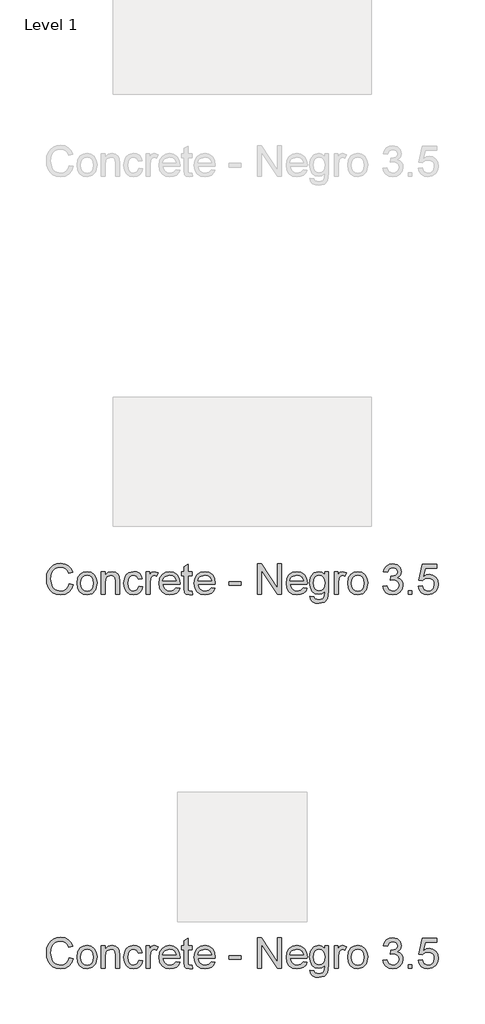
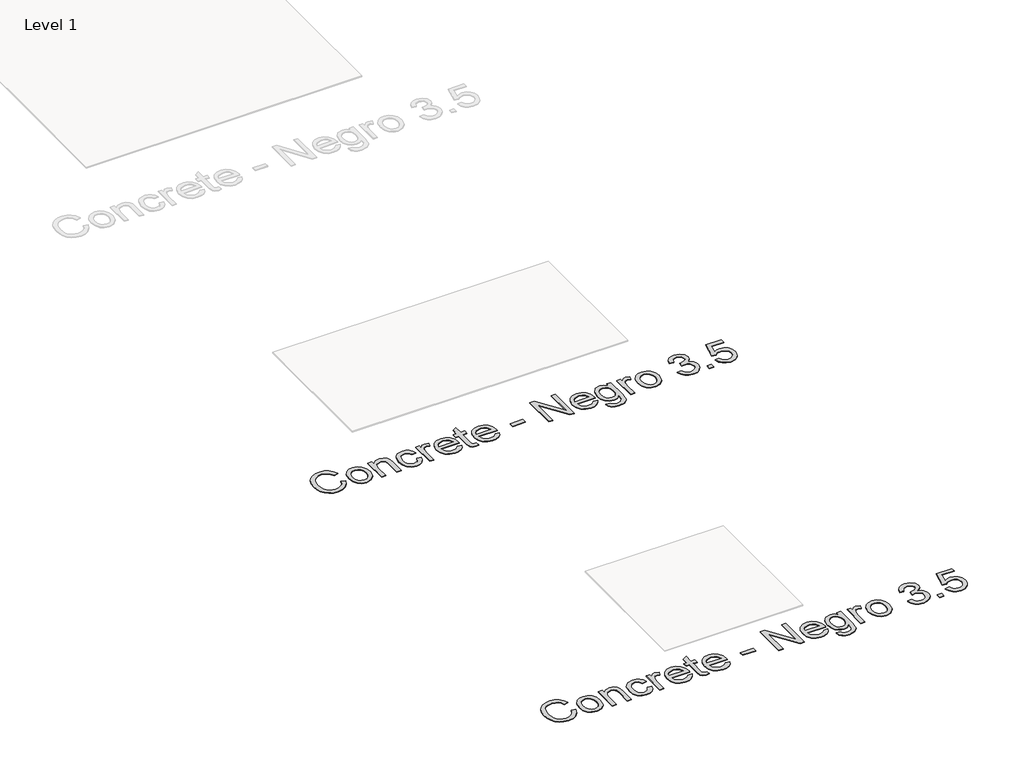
# One storey, part 51 of 80: 2 proxies.
"""IFC4 building model written with IfcOpenShell, lengths in millimetres."""

from ifc_helpers import new_model, si_unit, origin, origin_with_axes, place, context, project, spatial, polyline, outline, extrude, element, save

model = new_model("IFC4")

# Units and contexts
model_context = context("Model", 3, world=origin())
ifc_project = project(units=[si_unit("LENGTHUNIT", "METRE", prefix="MILLI")], contexts=[model_context])

# Site, building, storey
site = spatial("IfcSite", under=ifc_project)
building = spatial("IfcBuilding", under=site)
storey = spatial("IfcBuildingStorey", under=building, Name="Level 1", Elevation=0.0)

# Proxies
placement = place(None, origin())
element("IfcBuildingElementProxy", 1, Name="24\" Arial", ObjectType="24\" Arial", at=placement, inside=storey, context=model_context, shape_type="SweptSolid", body=[
    extrude(outline(polyline([(-3254.7684156, 5685.3136623), (-3239.9991848, 5681.50597), (-3246.8140887, 5664.2956335), (-3257.5088002, 5651.7223162), (-3271.5568771, 5644.0312104), (-3288.4318771, 5641.4675085), (-3305.5628867, 5643.4074123), (-3319.1674541, 5649.2271239), (-3329.5953387, 5658.72472), (-3337.1963002, 5671.6982777), (-3341.8369252, 5686.9506816), (-3343.3838002, 5703.2848162), (-3341.6350021, 5720.5131816), (-3336.3886079, 5735.3905854), (-3327.918656, 5747.444672), (-3316.4991848, 5756.2030854), (-3302.9559156, 5761.5360181), (-3288.1145694, 5763.3136623), (-3271.9210598, 5761.0131816), (-3258.5328387, 5754.1117393), (-3248.3681752, 5743.0348162), (-3241.8453387, 5728.2078931), (-3256.6145694, 5724.6886623), (-3261.7347617, 5735.459095), (-3268.7299541, 5742.8473162), (-3277.6866848, 5747.1201527), (-3288.6914925, 5748.5444316), (-3301.3765887, 5746.9651047), (-3311.7972617, 5742.2271239), (-3319.7047137, 5734.8280854), (-3324.8501464, 5725.2655854), (-3328.6145694, 5703.3136623), (-3324.1578387, 5677.8713547), (-3318.4607233, 5668.3701527), (-3310.2828387, 5661.616547), (-3289.903031, 5656.2367393), (-3277.574906, 5658.06847), (-3267.3020694, 5663.5636623), (-3259.5460598, 5672.6646239), (-3254.7684156, 5685.3136623)])), origin_with_axes(), (0.0, 0.0, 1.0), 2.0),
    extrude(outline(polyline([(-3225.2299541, 5686.6982777), (-3222.0352425, 5707.6189508), (-3212.4511079, 5722.3232777), (-3200.6097617, 5729.5276047), (-3186.4318771, 5731.929047), (-3170.9162521, 5729.0047681), (-3158.5232233, 5720.2319316), (-3150.3994252, 5706.302845), (-3147.6914925, 5687.9098162), (-3152.4799541, 5661.63097), (-3166.4270694, 5646.7607777), (-3186.4318771, 5641.4675085), (-3202.1350021, 5644.38097), (-3214.5136079, 5653.1213547), (-3222.5508675, 5667.3425085), (-3225.2299541, 5686.6982777)]), holes=[polyline([(-3210.4607233, 5686.7271239), (-3208.7515887, 5673.3605373), (-3203.6241848, 5663.8377008), (-3195.9078387, 5658.1369797), (-3186.4318771, 5656.2367393), (-3176.9991848, 5658.147797), (-3169.2972617, 5663.88097), (-3164.1698579, 5673.5300085), (-3162.4607233, 5687.1886623), (-3164.1806752, 5700.1658258), (-3169.340531, 5709.5588547), (-3177.0532714, 5715.2595758), (-3186.4318771, 5717.1598162), (-3195.9078387, 5715.2667873), (-3203.6241848, 5709.5877008), (-3208.7515887, 5700.0864989), (-3210.4607233, 5686.7271239)])]), origin_with_axes(), (0.0, 0.0, 1.0), 2.0),
    extrude(outline(polyline([(-3131.0761079, 5643.3136623), (-3131.0761079, 5730.0828931), (-3116.3068771, 5730.0828931), (-3116.3068771, 5717.9675085), (-3105.0136079, 5728.4386623), (-3089.5953387, 5731.929047), (-3075.6482233, 5729.116547), (-3066.1289925, 5721.7319316), (-3061.7011079, 5710.8713547), (-3060.9222617, 5696.5925085), (-3060.9222617, 5643.3136623), (-3075.6914925, 5643.3136623), (-3075.6914925, 5694.6021239), (-3077.3934156, 5707.6694316), (-3083.4078387, 5714.5780854), (-3093.5472617, 5717.1598162), (-3109.5713002, 5711.3617393), (-3114.6229829, 5702.960297), (-3116.3068771, 5689.3521239), (-3116.3068771, 5643.3136623), (-3131.0761079, 5643.3136623)])), origin_with_axes(), (0.0, 0.0, 1.0), 2.0),
    extrude(outline(polyline([(-2985.2299541, 5674.6982777), (-2970.4607233, 5672.8521239), (-2974.5785117, 5659.7163066), (-2982.3164925, 5649.7896239), (-2992.9463002, 5643.5480373), (-3005.7395694, 5641.4675085), (-3021.449906, 5644.3701527), (-3033.7347617, 5653.0780854), (-3041.6638483, 5667.209095), (-3044.3068771, 5686.38097), (-3039.7924541, 5710.9146239), (-3034.0953387, 5720.1129412), (-3026.0328387, 5726.679047), (-3005.9414925, 5731.929047), (-2993.4619252, 5730.1261623), (-2983.4847617, 5724.7175085), (-2976.3273098, 5715.991547), (-2972.3068771, 5704.2367393), (-2987.0761079, 5702.3905854), (-2993.9270694, 5713.4530854), (-3005.8261079, 5717.1598162), (-3015.3705791, 5715.335297), (-3022.9463002, 5709.8617393), (-3027.8898098, 5700.44347), (-3029.5376464, 5686.7848162), (-3027.9258675, 5672.9422681), (-3023.090531, 5663.491547), (-3015.6518291, 5658.0504412), (-3006.2299541, 5656.2367393), (-2992.3116848, 5660.7655854), (-2985.2299541, 5674.6982777)])), origin_with_axes(), (0.0, 0.0, 1.0), 2.0),
    extrude(outline(polyline([(-2957.5376464, 5643.3136623), (-2957.5376464, 5730.0828931), (-2944.6145694, 5730.0828931), (-2944.6145694, 5717.2463547), (-2935.4414925, 5729.0732777), (-2926.2107233, 5731.929047), (-2911.3838002, 5727.3713547), (-2916.3164925, 5714.13097), (-2926.7011079, 5717.1598162), (-2935.0520694, 5714.2463547), (-2940.3741848, 5706.1694316), (-2942.7684156, 5688.9194316), (-2942.7684156, 5643.3136623), (-2957.5376464, 5643.3136623)])), origin_with_axes(), (0.0, 0.0, 1.0), 2.0),
    extrude(outline(polyline([(-2841.403031, 5669.1598162), (-2826.9222617, 5667.3136623), (-2832.1398098, 5656.4026047), (-2840.465531, 5648.2463547), (-2851.7119252, 5643.16222), (-2865.6914925, 5641.4675085), (-2883.0208194, 5644.3917873), (-2896.3549541, 5653.1646239), (-2904.8573579, 5667.2163066), (-2907.6914925, 5685.9771239), (-2904.8285117, 5705.3689508), (-2896.2395694, 5719.8713547), (-2883.0857233, 5728.9146239), (-2866.528031, 5731.929047), (-2850.4859637, 5728.9218354), (-2837.6674541, 5719.9002008), (-2829.262406, 5705.4266431), (-2826.4607233, 5686.0636623), (-2826.5472617, 5682.0828931), (-2892.9222617, 5682.0828931), (-2890.3657714, 5671.0276047), (-2884.4270694, 5662.9002008), (-2875.856156, 5657.9026047), (-2865.403031, 5656.2367393), (-2850.9222617, 5659.3232777), (-2841.403031, 5669.1598162)]), holes=[polyline([(-2892.9222617, 5696.8521239), (-2841.2299541, 5696.8521239), (-2847.1434156, 5710.2367393), (-2855.7539925, 5715.429047), (-2866.5857233, 5717.1598162), (-2884.7732233, 5711.6357777), (-2890.4955791, 5705.177845), (-2892.9222617, 5696.8521239)])]), origin_with_axes(), (0.0, 0.0, 1.0), 2.0),
    extrude(outline(polyline([(-2780.3068771, 5655.63097), (-2778.4607233, 5642.88097), (-2789.5088002, 5641.4675085), (-2801.8838002, 5643.9194316), (-2808.0568771, 5650.3521239), (-2809.8453387, 5667.1117393), (-2809.8453387, 5715.3136623), (-2820.9222617, 5715.3136623), (-2820.9222617, 5730.0828931), (-2809.8453387, 5730.0828931), (-2809.8453387, 5751.1694316), (-2795.0761079, 5759.8521239), (-2795.0761079, 5730.0828931), (-2780.3068771, 5730.0828931), (-2780.3068771, 5715.3136623), (-2795.0761079, 5715.3136623), (-2795.0761079, 5667.5444316), (-2794.2972617, 5659.929047), (-2791.7732233, 5657.2319316), (-2786.7395694, 5656.2367393), (-2780.3068771, 5655.63097)])), origin_with_axes(), (0.0, 0.0, 1.0), 2.0),
    extrude(outline(polyline([(-2704.7876464, 5669.1598162), (-2690.3068771, 5667.3136623), (-2695.5244252, 5656.4026047), (-2703.8501464, 5648.2463547), (-2715.0965406, 5643.16222), (-2729.0761079, 5641.4675085), (-2746.4054348, 5644.3917873), (-2759.7395694, 5653.1646239), (-2768.2419733, 5667.2163066), (-2771.0761079, 5685.9771239), (-2768.2131271, 5705.3689508), (-2759.6241848, 5719.8713547), (-2746.4703387, 5728.9146239), (-2729.9126464, 5731.929047), (-2713.8705791, 5728.9218354), (-2701.0520694, 5719.9002008), (-2692.6470214, 5705.4266431), (-2689.8453387, 5686.0636623), (-2689.9318771, 5682.0828931), (-2756.3068771, 5682.0828931), (-2753.7503867, 5671.0276047), (-2747.8116848, 5662.9002008), (-2739.2407714, 5657.9026047), (-2728.7876464, 5656.2367393), (-2714.3068771, 5659.3232777), (-2704.7876464, 5669.1598162)]), holes=[polyline([(-2756.3068771, 5696.8521239), (-2704.6145694, 5696.8521239), (-2710.528031, 5710.2367393), (-2719.1386079, 5715.429047), (-2729.9703387, 5717.1598162), (-2748.1578387, 5711.6357777), (-2753.8801944, 5705.177845), (-2756.3068771, 5696.8521239)])]), origin_with_axes(), (0.0, 0.0, 1.0), 2.0),
    extrude(outline(polyline([(-2636.3068771, 5678.3905854), (-2636.3068771, 5693.1598162), (-2590.153031, 5693.1598162), (-2590.153031, 5678.3905854), (-2636.3068771, 5678.3905854)])), origin_with_axes(), (0.0, 0.0, 1.0), 2.0),
    extrude(outline(polyline([(-2525.5376464, 5643.3136623), (-2525.5376464, 5761.4675085), (-2509.7299541, 5761.4675085), (-2447.9991848, 5667.8617393), (-2447.9991848, 5761.4675085), (-2433.2299541, 5761.4675085), (-2433.2299541, 5643.3136623), (-2449.0376464, 5643.3136623), (-2510.7684156, 5736.9482777), (-2510.7684156, 5643.3136623), (-2525.5376464, 5643.3136623)])), origin_with_axes(), (0.0, 0.0, 1.0), 2.0),
    extrude(outline(polyline([(-2348.4799541, 5669.1598162), (-2333.9991848, 5667.3136623), (-2339.2167329, 5656.4026047), (-2347.5424541, 5648.2463547), (-2358.7888483, 5643.16222), (-2372.7684156, 5641.4675085), (-2390.0977425, 5644.3917873), (-2403.4318771, 5653.1646239), (-2411.934281, 5667.2163066), (-2414.7684156, 5685.9771239), (-2411.9054348, 5705.3689508), (-2403.3164925, 5719.8713547), (-2390.1626464, 5728.9146239), (-2373.6049541, 5731.929047), (-2357.5628867, 5728.9218354), (-2344.7443771, 5719.9002008), (-2336.3393291, 5705.4266431), (-2333.5376464, 5686.0636623), (-2333.6241848, 5682.0828931), (-2399.9991848, 5682.0828931), (-2397.4426944, 5671.0276047), (-2391.5039925, 5662.9002008), (-2382.9330791, 5657.9026047), (-2372.4799541, 5656.2367393), (-2357.9991848, 5659.3232777), (-2348.4799541, 5669.1598162)]), holes=[polyline([(-2399.9991848, 5696.8521239), (-2348.3068771, 5696.8521239), (-2354.2203387, 5710.2367393), (-2362.8309156, 5715.429047), (-2373.6626464, 5717.1598162), (-2391.8501464, 5711.6357777), (-2397.5725021, 5705.177845), (-2399.9991848, 5696.8521239)])]), origin_with_axes(), (0.0, 0.0, 1.0), 2.0),
    extrude(outline(polyline([(-2322.4607233, 5635.929047), (-2307.6914925, 5634.0828931), (-2302.903031, 5626.2944316), (-2288.5664925, 5623.00597), (-2273.4511079, 5626.7271239), (-2266.2395694, 5637.1694316), (-2265.2299541, 5654.3905854), (-2275.6289925, 5646.0828931), (-2288.3068771, 5643.3136623), (-2303.5340406, 5646.53722), (-2314.8886079, 5656.2078931), (-2321.9523098, 5670.3857777), (-2324.3068771, 5687.13097), (-2320.0809156, 5710.0203931), (-2307.8501464, 5726.2175085), (-2289.028031, 5731.929047), (-2275.8525502, 5728.6982777), (-2265.2299541, 5719.00597), (-2265.2299541, 5730.0828931), (-2250.4607233, 5730.0828931), (-2250.4607233, 5655.1694316), (-2254.4991848, 5626.4819316), (-2267.2924541, 5613.1405854), (-2288.8549541, 5608.2367393), (-2302.5965406, 5609.9639027), (-2313.4174541, 5615.1453931), (-2320.3585598, 5623.7956335), (-2322.4607233, 5635.929047)]), holes=[polyline([(-2309.5376464, 5688.1405854), (-2307.9619252, 5674.5937104), (-2303.2347617, 5665.2800085), (-2296.1277906, 5659.882172), (-2287.4126464, 5658.0828931), (-2278.762406, 5659.8713547), (-2271.6193771, 5665.2367393), (-2266.8273098, 5674.4314508), (-2265.2299541, 5687.7078931), (-2266.8741848, 5700.5119797), (-2271.8068771, 5709.7319316), (-2279.0544733, 5715.302845), (-2287.6434156, 5717.1598162), (-2296.0773098, 5715.3316912), (-2303.1482233, 5709.8473162), (-2307.9402906, 5700.7643835), (-2309.5376464, 5688.1405854)])]), origin_with_axes(), (0.0, 0.0, 1.0), 2.0),
    extrude(outline(polyline([(-2228.3068771, 5643.3136623), (-2228.3068771, 5730.0828931), (-2215.3838002, 5730.0828931), (-2215.3838002, 5717.2463547), (-2206.2107233, 5729.0732777), (-2196.9799541, 5731.929047), (-2182.153031, 5727.3713547), (-2187.0857233, 5714.13097), (-2197.4703387, 5717.1598162), (-2205.8213002, 5714.2463547), (-2211.1434156, 5706.1694316), (-2213.5376464, 5688.9194316), (-2213.5376464, 5643.3136623), (-2228.3068771, 5643.3136623)])), origin_with_axes(), (0.0, 0.0, 1.0), 2.0),
    extrude(outline(polyline([(-2176.6145694, 5686.6982777), (-2173.4198579, 5707.6189508), (-2163.8357233, 5722.3232777), (-2151.9943771, 5729.5276047), (-2137.8164925, 5731.929047), (-2122.3008675, 5729.0047681), (-2109.9078387, 5720.2319316), (-2101.7840406, 5706.302845), (-2099.0761079, 5687.9098162), (-2103.8645694, 5661.63097), (-2117.8116848, 5646.7607777), (-2137.8164925, 5641.4675085), (-2153.5196175, 5644.38097), (-2165.8982233, 5653.1213547), (-2173.9354829, 5667.3425085), (-2176.6145694, 5686.6982777)]), holes=[polyline([(-2161.8453387, 5686.7271239), (-2160.1362041, 5673.3605373), (-2155.0088002, 5663.8377008), (-2147.2924541, 5658.1369797), (-2137.8164925, 5656.2367393), (-2128.3838002, 5658.147797), (-2120.6818771, 5663.88097), (-2115.5544733, 5673.5300085), (-2113.8453387, 5687.1886623), (-2115.5652906, 5700.1658258), (-2120.7251464, 5709.5588547), (-2128.4378867, 5715.2595758), (-2137.8164925, 5717.1598162), (-2147.2924541, 5715.2667873), (-2155.0088002, 5709.5877008), (-2160.1362041, 5700.0864989), (-2161.8453387, 5686.7271239)])]), origin_with_axes(), (0.0, 0.0, 1.0), 2.0),
    extrude(outline(polyline([(-2039.9991848, 5674.6982777), (-2025.2299541, 5676.5444316), (-2017.0809156, 5660.9963547), (-2001.8357233, 5656.2367393), (-1991.7107233, 5657.8737585), (-1983.8934156, 5662.7848162), (-1978.8958194, 5670.1117393), (-1977.2299541, 5678.9963547), (-1978.8813964, 5687.4302489), (-1983.8357233, 5694.2703931), (-1991.3357233, 5698.802845), (-2000.6241848, 5700.3136623), (-2010.9799541, 5698.6982777), (-2009.3357233, 5713.4675085), (-2006.9703387, 5713.2944316), (-1990.2107233, 5717.5348162), (-1984.6289925, 5722.9146239), (-1982.7684156, 5730.5732777), (-1988.1626464, 5742.1261623), (-2002.0664925, 5746.6982777), (-2016.1434156, 5742.0828931), (-2023.3838002, 5728.2367393), (-2038.153031, 5730.0828931), (-2033.8044733, 5743.3449123), (-2026.0664925, 5753.2463547), (-2015.4799541, 5759.41222), (-2002.5857233, 5761.4675085), (-1984.7732233, 5757.4146239), (-1972.3116848, 5746.3377008), (-1967.9991848, 5731.4386623), (-1972.0953387, 5717.8232777), (-1984.2107233, 5708.0444316), (-1974.965531, 5704.3088547), (-1968.1145694, 5697.9482777), (-1963.8741848, 5689.3088547), (-1962.4607233, 5678.7367393), (-1965.2876464, 5664.3425085), (-1973.7684156, 5652.3136623), (-1986.5688964, 5644.179047), (-2002.3549541, 5641.4675085), (-2016.6338002, 5643.7824123), (-2028.2588002, 5650.7271239), (-2036.3429348, 5661.34972), (-2039.9991848, 5674.6982777)])), origin_with_axes(), (0.0, 0.0, 1.0), 2.0),
    extrude(outline(polyline([(-1942.153031, 5643.3136623), (-1942.153031, 5658.0828931), (-1927.3838002, 5658.0828931), (-1927.3838002, 5643.3136623), (-1942.153031, 5643.3136623)])), origin_with_axes(), (0.0, 0.0, 1.0), 2.0),
    extrude(outline(polyline([(-1903.3838002, 5674.6982777), (-1888.6145694, 5676.5444316), (-1881.1722617, 5661.3280854), (-1865.7395694, 5656.2367393), (-1855.153031, 5658.007172), (-1847.2203387, 5663.31847), (-1842.2660117, 5671.5576527), (-1840.6145694, 5682.1117393), (-1842.1614444, 5692.0492393), (-1846.8020694, 5699.6502008), (-1854.5725021, 5704.47472), (-1865.5088002, 5706.0828931), (-1878.4751464, 5703.5155854), (-1886.7684156, 5696.8521239), (-1901.5376464, 5698.6982777), (-1888.6145694, 5759.6213547), (-1831.3838002, 5759.6213547), (-1831.3838002, 5744.8521239), (-1876.6722617, 5744.8521239), (-1882.9895694, 5712.3136623), (-1872.4390887, 5718.7175085), (-1861.3838002, 5720.8521239), (-1847.5845214, 5718.2054893), (-1836.1289925, 5710.2655854), (-1828.4162521, 5698.1646239), (-1825.8453387, 5683.0348162), (-1828.1602425, 5668.2655854), (-1835.1049541, 5655.63097), (-1848.403031, 5645.0083739), (-1865.7972617, 5641.4675085), (-1880.3032714, 5643.7427489), (-1891.8597617, 5650.56847), (-1899.7816367, 5661.1514027), (-1903.3838002, 5674.6982777)])), origin_with_axes(), (0.0, 0.0, 1.0), 2.0),
])
element("IfcBuildingElementProxy", 2, Name="24\" Arial", ObjectType="24\" Arial", at=placement, inside=storey, context=model_context, shape_type="SweptSolid", body=[
    extrude(outline(polyline([(-3254.7684156, 7132.3794502), (-3239.9991848, 7128.5717579), (-3246.8140887, 7111.3614213), (-3257.5088002, 7098.788104), (-3271.5568771, 7091.0969982), (-3288.4318771, 7088.5332963), (-3305.5628867, 7090.4732002), (-3319.1674541, 7096.2929117), (-3329.5953387, 7105.7905079), (-3337.1963002, 7118.7640655), (-3341.8369252, 7134.0164694), (-3343.3838002, 7150.350604), (-3341.6350021, 7167.5789694), (-3336.3886079, 7182.4563732), (-3327.918656, 7194.5104598), (-3316.4991848, 7203.2688732), (-3302.9559156, 7208.6018059), (-3288.1145694, 7210.3794502), (-3271.9210598, 7208.0789694), (-3258.5328387, 7201.1775271), (-3248.3681752, 7190.100604), (-3241.8453387, 7175.2736809), (-3256.6145694, 7171.7544502), (-3261.7347617, 7182.5248829), (-3268.7299541, 7189.913104), (-3277.6866848, 7194.1859405), (-3288.6914925, 7195.6102194), (-3301.3765887, 7194.0308925), (-3311.7972617, 7189.2929117), (-3319.7047137, 7181.8938732), (-3324.8501464, 7172.3313732), (-3328.6145694, 7150.3794502), (-3324.1578387, 7124.9371425), (-3318.4607233, 7115.4359405), (-3310.2828387, 7108.6823348), (-3289.903031, 7103.3025271), (-3277.574906, 7105.1342579), (-3267.3020694, 7110.6294502), (-3259.5460598, 7119.7304117), (-3254.7684156, 7132.3794502)])), origin_with_axes(), (0.0, 0.0, 1.0), 2.0),
    extrude(outline(polyline([(-3225.2299541, 7133.7640655), (-3222.0352425, 7154.6847386), (-3212.4511079, 7169.3890655), (-3200.6097617, 7176.5933925), (-3186.4318771, 7178.9948348), (-3170.9162521, 7176.0705559), (-3158.5232233, 7167.2977194), (-3150.3994252, 7153.3686329), (-3147.6914925, 7134.975604), (-3152.4799541, 7108.6967579), (-3166.4270694, 7093.8265655), (-3186.4318771, 7088.5332963), (-3202.1350021, 7091.4467579), (-3214.5136079, 7100.1871425), (-3222.5508675, 7114.4082963), (-3225.2299541, 7133.7640655)]), holes=[polyline([(-3210.4607233, 7133.7929117), (-3208.7515887, 7120.4263252), (-3203.6241848, 7110.9034886), (-3195.9078387, 7105.2027675), (-3186.4318771, 7103.3025271), (-3176.9991848, 7105.2135848), (-3169.2972617, 7110.9467579), (-3164.1698579, 7120.5957963), (-3162.4607233, 7134.2544502), (-3164.1806752, 7147.2316136), (-3169.340531, 7156.6246425), (-3177.0532714, 7162.3253636), (-3186.4318771, 7164.225604), (-3195.9078387, 7162.3325752), (-3203.6241848, 7156.6534886), (-3208.7515887, 7147.1522867), (-3210.4607233, 7133.7929117)])]), origin_with_axes(), (0.0, 0.0, 1.0), 2.0),
    extrude(outline(polyline([(-3131.0761079, 7090.3794502), (-3131.0761079, 7177.1486809), (-3116.3068771, 7177.1486809), (-3116.3068771, 7165.0332963), (-3105.0136079, 7175.5044502), (-3089.5953387, 7178.9948348), (-3075.6482233, 7176.1823348), (-3066.1289925, 7168.7977194), (-3061.7011079, 7157.9371425), (-3060.9222617, 7143.6582963), (-3060.9222617, 7090.3794502), (-3075.6914925, 7090.3794502), (-3075.6914925, 7141.6679117), (-3077.3934156, 7154.7352194), (-3083.4078387, 7161.6438732), (-3093.5472617, 7164.225604), (-3109.5713002, 7158.4275271), (-3114.6229829, 7150.0260848), (-3116.3068771, 7136.4179117), (-3116.3068771, 7090.3794502), (-3131.0761079, 7090.3794502)])), origin_with_axes(), (0.0, 0.0, 1.0), 2.0),
    extrude(outline(polyline([(-2985.2299541, 7121.7640655), (-2970.4607233, 7119.9179117), (-2974.5785117, 7106.7820944), (-2982.3164925, 7096.8554117), (-2992.9463002, 7090.6138252), (-3005.7395694, 7088.5332963), (-3021.449906, 7091.4359405), (-3033.7347617, 7100.1438732), (-3041.6638483, 7114.2748829), (-3044.3068771, 7133.4467579), (-3039.7924541, 7157.9804117), (-3034.0953387, 7167.178729), (-3026.0328387, 7173.7448348), (-3005.9414925, 7178.9948348), (-2993.4619252, 7177.1919502), (-2983.4847617, 7171.7832963), (-2976.3273098, 7163.0573348), (-2972.3068771, 7151.3025271), (-2987.0761079, 7149.4563732), (-2993.9270694, 7160.5188732), (-3005.8261079, 7164.225604), (-3015.3705791, 7162.4010848), (-3022.9463002, 7156.9275271), (-3027.8898098, 7147.5092579), (-3029.5376464, 7133.850604), (-3027.9258675, 7120.0080559), (-3023.090531, 7110.5573348), (-3015.6518291, 7105.116229), (-3006.2299541, 7103.3025271), (-2992.3116848, 7107.8313732), (-2985.2299541, 7121.7640655)])), origin_with_axes(), (0.0, 0.0, 1.0), 2.0),
    extrude(outline(polyline([(-2957.5376464, 7090.3794502), (-2957.5376464, 7177.1486809), (-2944.6145694, 7177.1486809), (-2944.6145694, 7164.3121425), (-2935.4414925, 7176.1390655), (-2926.2107233, 7178.9948348), (-2911.3838002, 7174.4371425), (-2916.3164925, 7161.1967579), (-2926.7011079, 7164.225604), (-2935.0520694, 7161.3121425), (-2940.3741848, 7153.2352194), (-2942.7684156, 7135.9852194), (-2942.7684156, 7090.3794502), (-2957.5376464, 7090.3794502)])), origin_with_axes(), (0.0, 0.0, 1.0), 2.0),
    extrude(outline(polyline([(-2841.403031, 7116.225604), (-2826.9222617, 7114.3794502), (-2832.1398098, 7103.4683925), (-2840.465531, 7095.3121425), (-2851.7119252, 7090.2280079), (-2865.6914925, 7088.5332963), (-2883.0208194, 7091.4575752), (-2896.3549541, 7100.2304117), (-2904.8573579, 7114.2820944), (-2907.6914925, 7133.0429117), (-2904.8285117, 7152.4347386), (-2896.2395694, 7166.9371425), (-2883.0857233, 7175.9804117), (-2866.528031, 7178.9948348), (-2850.4859637, 7175.9876232), (-2837.6674541, 7166.9659886), (-2829.262406, 7152.4924309), (-2826.4607233, 7133.1294502), (-2826.5472617, 7129.1486809), (-2892.9222617, 7129.1486809), (-2890.3657714, 7118.0933925), (-2884.4270694, 7109.9659886), (-2875.856156, 7104.9683925), (-2865.403031, 7103.3025271), (-2850.9222617, 7106.3890655), (-2841.403031, 7116.225604)]), holes=[polyline([(-2892.9222617, 7143.9179117), (-2841.2299541, 7143.9179117), (-2847.1434156, 7157.3025271), (-2855.7539925, 7162.4948348), (-2866.5857233, 7164.225604), (-2884.7732233, 7158.7015655), (-2890.4955791, 7152.2436329), (-2892.9222617, 7143.9179117)])]), origin_with_axes(), (0.0, 0.0, 1.0), 2.0),
    extrude(outline(polyline([(-2780.3068771, 7102.6967579), (-2778.4607233, 7089.9467579), (-2789.5088002, 7088.5332963), (-2801.8838002, 7090.9852194), (-2808.0568771, 7097.4179117), (-2809.8453387, 7114.1775271), (-2809.8453387, 7162.3794502), (-2820.9222617, 7162.3794502), (-2820.9222617, 7177.1486809), (-2809.8453387, 7177.1486809), (-2809.8453387, 7198.2352194), (-2795.0761079, 7206.9179117), (-2795.0761079, 7177.1486809), (-2780.3068771, 7177.1486809), (-2780.3068771, 7162.3794502), (-2795.0761079, 7162.3794502), (-2795.0761079, 7114.6102194), (-2794.2972617, 7106.9948348), (-2791.7732233, 7104.2977194), (-2786.7395694, 7103.3025271), (-2780.3068771, 7102.6967579)])), origin_with_axes(), (0.0, 0.0, 1.0), 2.0),
    extrude(outline(polyline([(-2704.7876464, 7116.225604), (-2690.3068771, 7114.3794502), (-2695.5244252, 7103.4683925), (-2703.8501464, 7095.3121425), (-2715.0965406, 7090.2280079), (-2729.0761079, 7088.5332963), (-2746.4054348, 7091.4575752), (-2759.7395694, 7100.2304117), (-2768.2419733, 7114.2820944), (-2771.0761079, 7133.0429117), (-2768.2131271, 7152.4347386), (-2759.6241848, 7166.9371425), (-2746.4703387, 7175.9804117), (-2729.9126464, 7178.9948348), (-2713.8705791, 7175.9876232), (-2701.0520694, 7166.9659886), (-2692.6470214, 7152.4924309), (-2689.8453387, 7133.1294502), (-2689.9318771, 7129.1486809), (-2756.3068771, 7129.1486809), (-2753.7503867, 7118.0933925), (-2747.8116848, 7109.9659886), (-2739.2407714, 7104.9683925), (-2728.7876464, 7103.3025271), (-2714.3068771, 7106.3890655), (-2704.7876464, 7116.225604)]), holes=[polyline([(-2756.3068771, 7143.9179117), (-2704.6145694, 7143.9179117), (-2710.528031, 7157.3025271), (-2719.1386079, 7162.4948348), (-2729.9703387, 7164.225604), (-2748.1578387, 7158.7015655), (-2753.8801944, 7152.2436329), (-2756.3068771, 7143.9179117)])]), origin_with_axes(), (0.0, 0.0, 1.0), 2.0),
    extrude(outline(polyline([(-2636.3068771, 7125.4563732), (-2636.3068771, 7140.225604), (-2590.153031, 7140.225604), (-2590.153031, 7125.4563732), (-2636.3068771, 7125.4563732)])), origin_with_axes(), (0.0, 0.0, 1.0), 2.0),
    extrude(outline(polyline([(-2525.5376464, 7090.3794502), (-2525.5376464, 7208.5332963), (-2509.7299541, 7208.5332963), (-2447.9991848, 7114.9275271), (-2447.9991848, 7208.5332963), (-2433.2299541, 7208.5332963), (-2433.2299541, 7090.3794502), (-2449.0376464, 7090.3794502), (-2510.7684156, 7184.0140655), (-2510.7684156, 7090.3794502), (-2525.5376464, 7090.3794502)])), origin_with_axes(), (0.0, 0.0, 1.0), 2.0),
    extrude(outline(polyline([(-2348.4799541, 7116.225604), (-2333.9991848, 7114.3794502), (-2339.2167329, 7103.4683925), (-2347.5424541, 7095.3121425), (-2358.7888483, 7090.2280079), (-2372.7684156, 7088.5332963), (-2390.0977425, 7091.4575752), (-2403.4318771, 7100.2304117), (-2411.934281, 7114.2820944), (-2414.7684156, 7133.0429117), (-2411.9054348, 7152.4347386), (-2403.3164925, 7166.9371425), (-2390.1626464, 7175.9804117), (-2373.6049541, 7178.9948348), (-2357.5628867, 7175.9876232), (-2344.7443771, 7166.9659886), (-2336.3393291, 7152.4924309), (-2333.5376464, 7133.1294502), (-2333.6241848, 7129.1486809), (-2399.9991848, 7129.1486809), (-2397.4426944, 7118.0933925), (-2391.5039925, 7109.9659886), (-2382.9330791, 7104.9683925), (-2372.4799541, 7103.3025271), (-2357.9991848, 7106.3890655), (-2348.4799541, 7116.225604)]), holes=[polyline([(-2399.9991848, 7143.9179117), (-2348.3068771, 7143.9179117), (-2354.2203387, 7157.3025271), (-2362.8309156, 7162.4948348), (-2373.6626464, 7164.225604), (-2391.8501464, 7158.7015655), (-2397.5725021, 7152.2436329), (-2399.9991848, 7143.9179117)])]), origin_with_axes(), (0.0, 0.0, 1.0), 2.0),
    extrude(outline(polyline([(-2322.4607233, 7082.9948348), (-2307.6914925, 7081.1486809), (-2302.903031, 7073.3602194), (-2288.5664925, 7070.0717579), (-2273.4511079, 7073.7929117), (-2266.2395694, 7084.2352194), (-2265.2299541, 7101.4563732), (-2275.6289925, 7093.1486809), (-2288.3068771, 7090.3794502), (-2303.5340406, 7093.6030079), (-2314.8886079, 7103.2736809), (-2321.9523098, 7117.4515655), (-2324.3068771, 7134.1967579), (-2320.0809156, 7157.0861809), (-2307.8501464, 7173.2832963), (-2289.028031, 7178.9948348), (-2275.8525502, 7175.7640655), (-2265.2299541, 7166.0717579), (-2265.2299541, 7177.1486809), (-2250.4607233, 7177.1486809), (-2250.4607233, 7102.2352194), (-2254.4991848, 7073.5477194), (-2267.2924541, 7060.2063732), (-2288.8549541, 7055.3025271), (-2302.5965406, 7057.0296905), (-2313.4174541, 7062.2111809), (-2320.3585598, 7070.8614213), (-2322.4607233, 7082.9948348)]), holes=[polyline([(-2309.5376464, 7135.2063732), (-2307.9619252, 7121.6594982), (-2303.2347617, 7112.3457963), (-2296.1277906, 7106.9479598), (-2287.4126464, 7105.1486809), (-2278.762406, 7106.9371425), (-2271.6193771, 7112.3025271), (-2266.8273098, 7121.4972386), (-2265.2299541, 7134.7736809), (-2266.8741848, 7147.5777675), (-2271.8068771, 7156.7977194), (-2279.0544733, 7162.3686329), (-2287.6434156, 7164.225604), (-2296.0773098, 7162.397479), (-2303.1482233, 7156.913104), (-2307.9402906, 7147.8301713), (-2309.5376464, 7135.2063732)])]), origin_with_axes(), (0.0, 0.0, 1.0), 2.0),
    extrude(outline(polyline([(-2228.3068771, 7090.3794502), (-2228.3068771, 7177.1486809), (-2215.3838002, 7177.1486809), (-2215.3838002, 7164.3121425), (-2206.2107233, 7176.1390655), (-2196.9799541, 7178.9948348), (-2182.153031, 7174.4371425), (-2187.0857233, 7161.1967579), (-2197.4703387, 7164.225604), (-2205.8213002, 7161.3121425), (-2211.1434156, 7153.2352194), (-2213.5376464, 7135.9852194), (-2213.5376464, 7090.3794502), (-2228.3068771, 7090.3794502)])), origin_with_axes(), (0.0, 0.0, 1.0), 2.0),
    extrude(outline(polyline([(-2176.6145694, 7133.7640655), (-2173.4198579, 7154.6847386), (-2163.8357233, 7169.3890655), (-2151.9943771, 7176.5933925), (-2137.8164925, 7178.9948348), (-2122.3008675, 7176.0705559), (-2109.9078387, 7167.2977194), (-2101.7840406, 7153.3686329), (-2099.0761079, 7134.975604), (-2103.8645694, 7108.6967579), (-2117.8116848, 7093.8265655), (-2137.8164925, 7088.5332963), (-2153.5196175, 7091.4467579), (-2165.8982233, 7100.1871425), (-2173.9354829, 7114.4082963), (-2176.6145694, 7133.7640655)]), holes=[polyline([(-2161.8453387, 7133.7929117), (-2160.1362041, 7120.4263252), (-2155.0088002, 7110.9034886), (-2147.2924541, 7105.2027675), (-2137.8164925, 7103.3025271), (-2128.3838002, 7105.2135848), (-2120.6818771, 7110.9467579), (-2115.5544733, 7120.5957963), (-2113.8453387, 7134.2544502), (-2115.5652906, 7147.2316136), (-2120.7251464, 7156.6246425), (-2128.4378867, 7162.3253636), (-2137.8164925, 7164.225604), (-2147.2924541, 7162.3325752), (-2155.0088002, 7156.6534886), (-2160.1362041, 7147.1522867), (-2161.8453387, 7133.7929117)])]), origin_with_axes(), (0.0, 0.0, 1.0), 2.0),
    extrude(outline(polyline([(-2039.9991848, 7121.7640655), (-2025.2299541, 7123.6102194), (-2017.0809156, 7108.0621425), (-2001.8357233, 7103.3025271), (-1991.7107233, 7104.9395463), (-1983.8934156, 7109.850604), (-1978.8958194, 7117.1775271), (-1977.2299541, 7126.0621425), (-1978.8813964, 7134.4960367), (-1983.8357233, 7141.3361809), (-1991.3357233, 7145.8686329), (-2000.6241848, 7147.3794502), (-2010.9799541, 7145.7640655), (-2009.3357233, 7160.5332963), (-2006.9703387, 7160.3602194), (-1990.2107233, 7164.600604), (-1984.6289925, 7169.9804117), (-1982.7684156, 7177.6390655), (-1988.1626464, 7189.1919502), (-2002.0664925, 7193.7640655), (-2016.1434156, 7189.1486809), (-2023.3838002, 7175.3025271), (-2038.153031, 7177.1486809), (-2033.8044733, 7190.4107002), (-2026.0664925, 7200.3121425), (-2015.4799541, 7206.4780079), (-2002.5857233, 7208.5332963), (-1984.7732233, 7204.4804117), (-1972.3116848, 7193.4034886), (-1967.9991848, 7178.5044502), (-1972.0953387, 7164.8890655), (-1984.2107233, 7155.1102194), (-1974.965531, 7151.3746425), (-1968.1145694, 7145.0140655), (-1963.8741848, 7136.3746425), (-1962.4607233, 7125.8025271), (-1965.2876464, 7111.4082963), (-1973.7684156, 7099.3794502), (-1986.5688964, 7091.2448348), (-2002.3549541, 7088.5332963), (-2016.6338002, 7090.8482002), (-2028.2588002, 7097.7929117), (-2036.3429348, 7108.4155079), (-2039.9991848, 7121.7640655)])), origin_with_axes(), (0.0, 0.0, 1.0), 2.0),
    extrude(outline(polyline([(-1942.153031, 7090.3794502), (-1942.153031, 7105.1486809), (-1927.3838002, 7105.1486809), (-1927.3838002, 7090.3794502), (-1942.153031, 7090.3794502)])), origin_with_axes(), (0.0, 0.0, 1.0), 2.0),
    extrude(outline(polyline([(-1903.3838002, 7121.7640655), (-1888.6145694, 7123.6102194), (-1881.1722617, 7108.3938732), (-1865.7395694, 7103.3025271), (-1855.153031, 7105.0729598), (-1847.2203387, 7110.3842579), (-1842.2660117, 7118.6234405), (-1840.6145694, 7129.1775271), (-1842.1614444, 7139.1150271), (-1846.8020694, 7146.7159886), (-1854.5725021, 7151.5405079), (-1865.5088002, 7153.1486809), (-1878.4751464, 7150.5813732), (-1886.7684156, 7143.9179117), (-1901.5376464, 7145.7640655), (-1888.6145694, 7206.6871425), (-1831.3838002, 7206.6871425), (-1831.3838002, 7191.9179117), (-1876.6722617, 7191.9179117), (-1882.9895694, 7159.3794502), (-1872.4390887, 7165.7832963), (-1861.3838002, 7167.9179117), (-1847.5845214, 7165.2712771), (-1836.1289925, 7157.3313732), (-1828.4162521, 7145.2304117), (-1825.8453387, 7130.100604), (-1828.1602425, 7115.3313732), (-1835.1049541, 7102.6967579), (-1848.403031, 7092.0741617), (-1865.7972617, 7088.5332963), (-1880.3032714, 7090.8085367), (-1891.8597617, 7097.6342579), (-1899.7816367, 7108.2171905), (-1903.3838002, 7121.7640655)])), origin_with_axes(), (0.0, 0.0, 1.0), 2.0),
])

save(model, "model.ifc")
